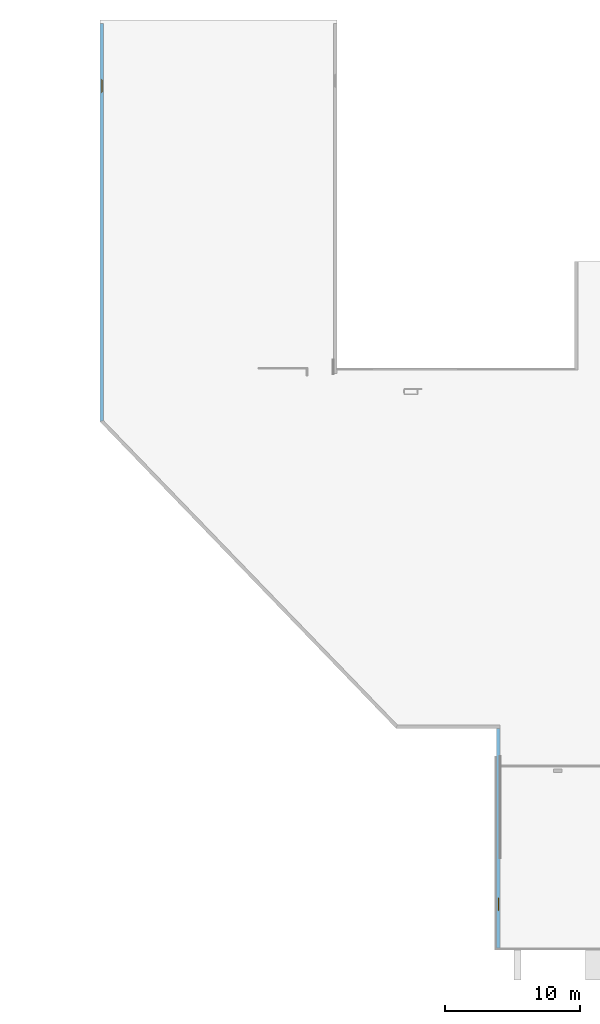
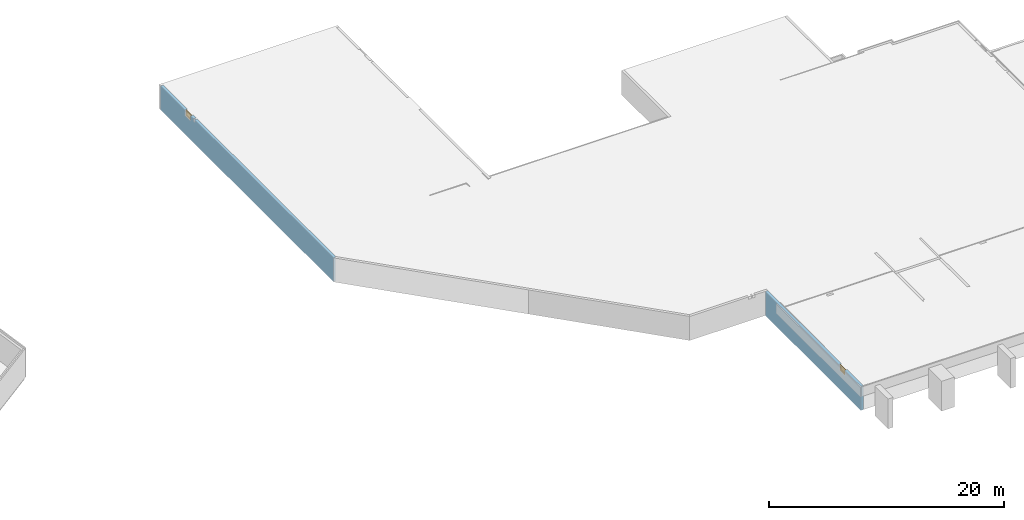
# One storey, part 8 of 10: 2 windows, 3 openings, plus 2 elements that do not belong to this part.
"""IFC2X3 building model written with IfcOpenShell, lengths in millimetres."""

import ifcopenshell
import ifcopenshell.guid

model = None  # the IFC model being written
_history = None  # IfcOwnerHistory: only IFC2X3 demands one
_inside = {}  # id of a spatial element -> (the spatial element, [elements in it])
_under = {}  # id of a project, library or spatial element -> (it, [spatial elements below it])
_declared = {}  # id of a project -> (the project, [libraries it declares])
_typed = {}  # id of a type object -> (the type object, [elements of that type])
_made_of = {}  # id of a material, layer set ... -> (it, [elements and type objects made of it])


def new_model(schema):
    """Start an empty IFC model of exactly this schema.

    Asked for "IFC4X3", IfcOpenShell would pick the latest addendum, in which some entities
    have other attributes; the version numbers below select the first issue.
    IFC2X3 requires an IfcOwnerHistory on every rooted entity: one is made here for all.
    """
    global model, _history
    if schema == "IFC4X3":
        model = ifcopenshell.file(schema_version=(4, 3, 0, 0))
    else:
        model = ifcopenshell.file(schema=schema)
    _inside.clear()
    _under.clear()
    _declared.clear()
    _typed.clear()
    _made_of.clear()
    _history = None
    if model.schema == "IFC2X3":
        org = make("IfcOrganization", Name="unknown")
        user = make(
            "IfcPersonAndOrganization",
            ThePerson=make("IfcPerson", FamilyName="unknown"),
            TheOrganization=org,
        )
        app = make(
            "IfcApplication",
            ApplicationDeveloper=org,
            Version="unknown",
            ApplicationFullName="unknown",
            ApplicationIdentifier="unknown",
        )
        _history = make(
            "IfcOwnerHistory",
            OwningUser=user,
            OwningApplication=app,
            ChangeAction="ADDED",
            CreationDate=0,
        )
    return model


def make(cls, **values):
    """One entity of the class cls with the attributes given. An attribute that is None is left unset."""
    return model.create_entity(
        cls, **{name: value for name, value in values.items() if value is not None}
    )


def entity(cls, *values):
    """Any entity or typed value of the class cls, its attributes in the order of the schema. None: left unset."""
    e = model.create_entity(cls)
    for i, value in enumerate(values):
        if value is not None:
            e[i] = value
    return e


def rooted(cls, **values):
    """An entity with a GlobalId (a new one), such as an element, a storey or a relation."""
    return make(cls, GlobalId=ifcopenshell.guid.new(), OwnerHistory=_history, **values)


def si_unit(unit_type, name, prefix=None):
    """IfcSIUnit, for example si_unit("LENGTHUNIT", "METRE", prefix="MILLI")."""
    return make("IfcSIUnit", UnitType=unit_type, Prefix=prefix, Name=name)


def converted_unit(unit_type, name, factor, base, dimensions=None, offset=None):
    """IfcConversionBasedUnit, such as the inch: factor (a typed value) times the base unit."""
    return make(
        "IfcConversionBasedUnit"
        if offset is None
        else "IfcConversionBasedUnitWithOffset",
        ConversionOffset=offset,
        Dimensions=None
        if dimensions is None
        else entity("IfcDimensionalExponents", *dimensions),
        UnitType=unit_type,
        Name=name,
        ConversionFactor=make(
            "IfcMeasureWithUnit", ValueComponent=factor, UnitComponent=base
        ),
    )


def assignment(units):
    """IfcUnitAssignment: the units of a project."""
    return None if units is None else make("IfcUnitAssignment", Units=units)


def point(xyz):
    """IfcCartesianPoint."""
    return None if xyz is None else make("IfcCartesianPoint", Coordinates=xyz)


def direction(xyz):
    """IfcDirection."""
    return None if xyz is None else make("IfcDirection", DirectionRatios=xyz)


def frame(location, z_axis=None, x_axis=None):
    """IfcAxis2Placement3D, a coordinate frame: its origin and axes. An axis left out is left unset."""
    return make(
        "IfcAxis2Placement3D",
        Location=point(location),
        Axis=direction(z_axis),
        RefDirection=direction(x_axis),
    )


def frame_2d(location, x_axis=None):
    """IfcAxis2Placement2D, a coordinate frame in the plane: its origin and x axis."""
    return make(
        "IfcAxis2Placement2D", Location=point(location), RefDirection=direction(x_axis)
    )


def origin():
    """The frame at (0, 0, 0) with its axes left unset."""
    return frame((0.0, 0.0, 0.0))


def origin_with_axes():
    """The frame at (0, 0, 0) with the z axis (0, 0, 1) and the x axis (1, 0, 0) written out."""
    return frame((0.0, 0.0, 0.0), z_axis=(0.0, 0.0, 1.0), x_axis=(1.0, 0.0, 0.0))


def place(relative_to, where):
    """IfcLocalPlacement: puts the frame where relative to a parent placement (None: the world)."""
    return make(
        "IfcLocalPlacement", PlacementRelTo=relative_to, RelativePlacement=where
    )


def context(
    kind, dimensions, precision=None, world=None, true_north=None, identifier=None
):
    """IfcGeometricRepresentationContext, for example the 3D "Model" context."""
    return make(
        "IfcGeometricRepresentationContext",
        ContextIdentifier=identifier,
        ContextType=kind,
        CoordinateSpaceDimension=dimensions,
        Precision=precision,
        WorldCoordinateSystem=world,
        TrueNorth=true_north,
    )


def subcontext(parent, identifier, kind, view, scale=None):
    """IfcGeometricRepresentationSubContext, for example "Body" below "Model"."""
    return make(
        "IfcGeometricRepresentationSubContext",
        ContextIdentifier=identifier,
        ContextType=kind,
        ParentContext=parent,
        TargetScale=scale,
        TargetView=view,
    )


def project(units=None, contexts=None):
    """IfcProject with its units and contexts."""
    return rooted(
        "IfcProject",
        Name="project",
        RepresentationContexts=contexts,
        UnitsInContext=assignment(units),
    )


def spatial(cls, under=None, at=None, **own):
    """A site, building, storey or space (cls), placed at a placement, below another one or the project."""
    s = rooted(cls, ObjectPlacement=at, **own)
    if under is not None:
        _under.setdefault(under.id(), (under, []))[1].append(s)
    return s


def polyline(points):
    """IfcPolyline through the points."""
    return make("IfcPolyline", Points=[point(p) for p in points])


def profile(cls, at=None, kind="AREA", **sizes):
    """A parametric profile (cls). Its sizes go by their IFC names, for example OverallWidth=200.0."""
    return make(cls, ProfileType=kind, Position=at, **sizes)


def rectangle(**sizes):
    """IfcRectangleProfileDef."""
    return profile("IfcRectangleProfileDef", **sizes)


def outline(outer, holes=None, kind="AREA"):
    """IfcArbitraryClosedProfileDef: a profile drawn as a closed curve; with holes, ...WithVoids."""
    if holes is None:
        return make("IfcArbitraryClosedProfileDef", ProfileType=kind, OuterCurve=outer)
    return make(
        "IfcArbitraryProfileDefWithVoids",
        ProfileType=kind,
        OuterCurve=outer,
        InnerCurves=holes,
    )


def extrude(swept, where, along, depth):
    """IfcExtrudedAreaSolid: the profile swept, set in the frame where, extruded along a direction by depth."""
    return make(
        "IfcExtrudedAreaSolid",
        SweptArea=swept,
        Position=where,
        ExtrudedDirection=direction(along),
        Depth=depth,
    )


def faces_of(points, faces, orient=None, outer=None):
    """IfcFace entities. A face is a list of loops; a loop is a list of indices into points, from 0.

    orient and outer hold one flag for each loop. By default every Orientation is true, the
    first loop of a face is its IfcFaceOuterBound and the others are IfcFaceBound.
    """
    made = []
    for i, loops in enumerate(faces):
        bounds = []
        for j, loop in enumerate(loops):
            is_outer = j == 0 if outer is None else outer[i][j]
            bounds.append(
                make(
                    "IfcFaceOuterBound" if is_outer else "IfcFaceBound",
                    Bound=make("IfcPolyLoop", Polygon=[points[k] for k in loop]),
                    Orientation=True if orient is None else orient[i][j],
                )
            )
        made.append(make("IfcFace", Bounds=bounds))
    return made


def faceted_brep(points, faces, orient=None, outer=None, voids=None):
    """IfcFacetedBrep: a solid bounded by flat faces; with voids (closed shells), ...WithVoids."""
    shared = [point(p) for p in points]
    hull = make("IfcClosedShell", CfsFaces=faces_of(shared, faces, orient, outer))
    if voids is None:
        return make("IfcFacetedBrep", Outer=hull)
    return make(
        "IfcFacetedBrepWithVoids",
        Outer=hull,
        Voids=[
            make(cls, CfsFaces=faces_of(shared, fs, o, b)) for cls, fs, o, b in voids
        ],
    )


def shape(context_of_items, identifier, shape_type, items):
    """IfcShapeRepresentation: the items that make up one representation, for example the "Body"."""
    return make(
        "IfcShapeRepresentation",
        ContextOfItems=context_of_items,
        RepresentationIdentifier=identifier,
        RepresentationType=shape_type,
        Items=items,
    )


def material(Name=None, Category=None):
    """IfcMaterial."""
    return make("IfcMaterial", Name=Name, Category=Category)


def layer(
    of_material, thickness, ventilated=None, Name=None, Category=None, Priority=None
):
    """IfcMaterialLayer: one layer of a wall or slab, of a material (None: an air gap)."""
    return make(
        "IfcMaterialLayer",
        Material=of_material,
        LayerThickness=thickness,
        IsVentilated=ventilated,
        Name=Name,
        Category=Category,
        Priority=Priority,
    )


def layer_set(layers, Name=None):
    """IfcMaterialLayerSet."""
    return make("IfcMaterialLayerSet", MaterialLayers=layers, LayerSetName=Name)


def layer_usage(for_layer_set, set_direction, sense, offset, extent=None):
    """IfcMaterialLayerSetUsage: how a layer set lies in its element."""
    return make(
        "IfcMaterialLayerSetUsage",
        ForLayerSet=for_layer_set,
        LayerSetDirection=set_direction,
        DirectionSense=sense,
        OffsetFromReferenceLine=offset,
        ReferenceExtent=extent,
    )


def made_of(thing, what):
    """Note that an element or type object is made of a material, layer set ...; save() writes the relation."""
    if what is not None:
        _made_of.setdefault(what.id(), (what, []))[1].append(thing)
    return thing


def type_object(cls, material=None, **own):
    """A type object (cls), such as IfcWallType, which elements share."""
    return made_of(rooted(cls, **own), material)


def element(
    cls,
    number,
    at=None,
    inside=None,
    cuts=None,
    type_object=None,
    material=None,
    context=None,
    identifier="Body",
    shape_type=None,
    held_by="IfcProductDefinitionShape",
    body=None,
    shapes=None,
    **own,
):
    """One element of the class cls, such as IfcWall. Its Tag is "e" and its number.

    at: its placement. inside: the storey or other place that contains it. cuts: it is an
    opening in that element (IfcRelVoidsElement). A single representation is given by context,
    identifier, shape_type and body (its items); several are given by shapes. held_by: the class
    of the entity that holds the representations. save() writes the other relations.
    """
    e = rooted(cls, Tag="e%d" % number, ObjectPlacement=at, **own)
    if body is not None:
        shapes = [shape(context, identifier, shape_type, body)]
    if shapes is not None:
        e.Representation = make(held_by, Representations=shapes)
    if inside is not None:
        _inside.setdefault(inside.id(), (inside, []))[1].append(e)
    if cuts is not None:
        rooted(
            "IfcRelVoidsElement", RelatingBuildingElement=cuts, RelatedOpeningElement=e
        )
    if type_object is not None:
        _typed.setdefault(type_object.id(), (type_object, []))[1].append(e)
    return made_of(e, material)


def fill(opening, filler):
    """IfcRelFillsElement: the door or window that sits in an opening."""
    return rooted(
        "IfcRelFillsElement",
        RelatingOpeningElement=opening,
        RelatedBuildingElement=filler,
    )


def aggregate(whole, parts):
    """IfcRelAggregates: a whole, such as a stair, and the parts it consists of."""
    return rooted("IfcRelAggregates", RelatingObject=whole, RelatedObjects=parts)


def save(model, path):
    """Write the relations noted so far, then the file.

    IfcRelAggregates (storeys below a building ...), IfcRelContainedInSpatialStructure (elements
    in a storey), IfcRelDefinesByType, IfcRelAssociatesMaterial and IfcRelDeclares: one each for
    every whole, place, type object, material and project.
    """
    for whole, parts in _under.values():
        aggregate(whole, parts)
    for where, things in _inside.values():
        rooted(
            "IfcRelContainedInSpatialStructure",
            RelatedElements=things,
            RelatingStructure=where,
        )
    for kind, things in _typed.values():
        rooted("IfcRelDefinesByType", RelatedObjects=things, RelatingType=kind)
    for what, things in _made_of.values():
        rooted("IfcRelAssociatesMaterial", RelatedObjects=things, RelatingMaterial=what)
    for by, libraries in _declared.values():
        rooted("IfcRelDeclares", RelatingContext=by, RelatedDefinitions=libraries)
    model.write(path)


model = new_model("IFC2X3")

# Units and contexts
model_context = context("Model", 3, precision=1e-05, world=origin())
body_context = subcontext(model_context, "Body", "Model", "MODEL_VIEW")
ifc_project = project(units=[si_unit("LENGTHUNIT", "METRE", prefix="MILLI"), converted_unit("PLANEANGLEUNIT", "DEGREE", entity("IfcPlaneAngleMeasure", 0.0174532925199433), si_unit("PLANEANGLEUNIT", "RADIAN"), dimensions=[0, 0, 0, 0, 0, 0, 0]), si_unit("AREAUNIT", "SQUARE_METRE"), si_unit("VOLUMEUNIT", "CUBIC_METRE")], contexts=[model_context])

# Building, storey
building_placement = place(None, origin())
building = spatial("IfcBuilding", under=ifc_project, at=building_placement, Name="Gebäude", CompositionType="ELEMENT")
storey_placement = place(building_placement, frame((0.0, 0.0, -3205.0), z_axis=(0.0, 0.0, 1.0), x_axis=(1.0, 0.0, 0.0)))
storey = spatial("IfcBuildingStorey", under=building, at=storey_placement, Name="KG.- Grundriss", CompositionType="ELEMENT", Elevation=-3205.0)

# Wall, openings, window
ifc_material_1 = material(Name="Stb-Wand")
ifc_layer_1 = layer(ifc_material_1, 249.9999999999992)
ifc_layer_set_1 = layer_set([ifc_layer_1])
ifc_layer_usage_1 = layer_usage(ifc_layer_set_1, "AXIS2", "POSITIVE", 0.0)
wall_1_placement = place(storey_placement, frame((212857.6842014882, 153405.0661829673, 3205.0), z_axis=(0.0, 0.0, 1.0), x_axis=(-7.913862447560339e-15, -1.0, 0.0)))
wall_1 = element("IfcWallStandardCase", 1, at=wall_1_placement, inside=storey, material=ifc_layer_usage_1, Name="<Unnamed Element>", context=body_context, shape_type="SweptSolid", body=[
    extrude(outline(polyline([(0.0, 0.0), (29420.60785067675, 0.0), (29319.60129421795, 249.9999999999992), (-1.978465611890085e-12, 250.0), (0.0, 0.0)])), origin_with_axes(), (0.0, 0.0, 1.0), 2500.0),
])
opening_1_placement = place(wall_1_placement, frame((4115.0, -5.820766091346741e-11, 1900.0), z_axis=(0.0, 1.0, 0.0), x_axis=(0.0, 0.0, 1.0)))
opening_1 = element("IfcOpeningElement", 2, at=opening_1_placement, cuts=wall_1, Name="Fensteröffnung", ObjectType="Opening", context=body_context, shape_type="SweptSolid", body=[
    extrude(rectangle(XDim=600.0, YDim=1010.0, at=frame_2d((300.0, 505.0), x_axis=(1.0, 0.0))), origin_with_axes(), (0.0, 0.0, 1.0), 250.0),
])
opening_2_placement = place(wall_1_placement, frame((5609.999996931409, 2.980290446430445e-06, 2250.0), z_axis=(0.0, 1.0, 0.0), x_axis=(0.0, 0.0, 1.0)))
element("IfcOpeningElement", 3, at=opening_2_placement, cuts=wall_1, Name="Wanddurchbruch", ObjectType="Recess", context=body_context, shape_type="SweptSolid", body=[
    extrude(rectangle(XDim=250.0, YDim=200.0, at=frame_2d((125.0, 100.0), x_axis=(1.0, 0.0))), origin_with_axes(), (0.0, 0.0, 1.0), 249.999999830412),
])
ifc_material_2 = material()
window_style_1 = type_object("IfcWindowStyle", Name="Fenster", ConstructionType="NOTDEFINED", OperationType="SINGLE_PANEL", ParameterTakesPrecedence=True, Sizeable=False)
window_1_placement = place(opening_1_placement, frame((0.0, 0.0, 100.0), z_axis=(1.0, 0.0, 0.0), x_axis=(0.0, 1.0, 0.0)))
window_1 = element("IfcWindow", 4, at=window_1_placement, inside=storey, type_object=window_style_1, material=ifc_material_2, Name="Fenster", OverallHeight=600.0, OverallWidth=1010.0, context=body_context, shape_type="Brep", body=[
    faceted_brep([(960.0000000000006, 50.00000000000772, 0.0), (1010.000000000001, 50.00000000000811, 0.0), (1010.000000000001, 50.00000000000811, 600.0), (960.0000000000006, 50.00000000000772, 600.0), (1010.000000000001, 8.114398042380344e-12, 0.0), (960.0000000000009, 7.709388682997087e-12, 0.0), (960.0000000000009, 7.709388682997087e-12, 600.0), (1010.000000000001, 8.114398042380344e-12, 600.0), (1010.000000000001, 50.00000000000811, 0.0), (960.0000000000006, 50.00000000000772, 0.0), (960.0000000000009, 7.709388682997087e-12, 0.0), (1010.000000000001, 8.114398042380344e-12, 0.0), (1010.000000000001, 50.00000000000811, 600.0), (1010.000000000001, 50.00000000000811, 0.0), (1010.000000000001, 8.114398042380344e-12, 0.0), (1010.000000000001, 8.114398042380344e-12, 600.0), (960.0000000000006, 50.00000000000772, 600.0), (1010.000000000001, 50.00000000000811, 600.0), (1010.000000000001, 8.114398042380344e-12, 600.0), (960.0000000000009, 7.709388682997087e-12, 600.0), (960.0000000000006, 50.00000000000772, 0.0), (960.0000000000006, 50.00000000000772, 600.0), (960.0000000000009, 7.709388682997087e-12, 600.0), (960.0000000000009, 7.709388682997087e-12, 0.0)], [[[0, 1, 2, 3]], [[4, 5, 6, 7]], [[8, 9, 10, 11]], [[12, 13, 14, 15]], [[16, 17, 18, 19]], [[20, 21, 22, 23]]], orient=[[False], [False], [False], [False], [False], [False]]),
    faceted_brep([(50.00000000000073, 50.0000000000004, 600.0), (7.227429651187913e-13, 50.0, 600.0), (7.227429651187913e-13, 50.0, 0.0), (50.00000000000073, 50.0000000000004, 0.0), (1.121497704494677e-12, 0.0, 600.0), (50.00000000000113, 3.979039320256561e-13, 600.0), (50.00000000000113, 3.979039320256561e-13, 0.0), (1.121497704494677e-12, 0.0, 0.0), (7.227429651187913e-13, 50.0, 600.0), (50.00000000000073, 50.0000000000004, 600.0), (50.00000000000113, 3.979039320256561e-13, 600.0), (1.121497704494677e-12, 0.0, 600.0), (7.227429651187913e-13, 50.0, 0.0), (7.227429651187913e-13, 50.0, 600.0), (1.121497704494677e-12, 0.0, 600.0), (1.121497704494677e-12, 0.0, 0.0), (50.00000000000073, 50.0000000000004, 0.0), (7.227429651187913e-13, 50.0, 0.0), (1.121497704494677e-12, 0.0, 0.0), (50.00000000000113, 3.979039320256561e-13, 0.0), (50.00000000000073, 50.0000000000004, 600.0), (50.00000000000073, 50.0000000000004, 0.0), (50.00000000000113, 3.979039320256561e-13, 0.0), (50.00000000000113, 3.979039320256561e-13, 600.0)], [[[0, 1, 2, 3]], [[4, 5, 6, 7]], [[8, 9, 10, 11]], [[12, 13, 14, 15]], [[16, 17, 18, 19]], [[20, 21, 22, 23]]], orient=[[False], [False], [False], [False], [False], [False]]),
    faceted_brep([(960.0000000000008, 50.00000000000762, 550.0), (960.0000000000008, 50.00000000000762, 600.0), (50.00000000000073, 50.00000000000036, 600.0), (50.00000000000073, 50.00000000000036, 550.0), (960.0000000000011, 7.609912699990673e-12, 600.0), (960.0000000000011, 7.609912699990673e-12, 550.0), (50.00000000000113, 3.552713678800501e-13, 550.0), (50.00000000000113, 3.552713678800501e-13, 600.0), (960.0000000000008, 50.00000000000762, 600.0), (960.0000000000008, 50.00000000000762, 550.0), (960.0000000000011, 7.609912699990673e-12, 550.0), (960.0000000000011, 7.609912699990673e-12, 600.0), (50.00000000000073, 50.00000000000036, 600.0), (960.0000000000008, 50.00000000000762, 600.0), (960.0000000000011, 7.609912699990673e-12, 600.0), (50.00000000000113, 3.552713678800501e-13, 600.0), (50.00000000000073, 50.00000000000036, 550.0), (50.00000000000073, 50.00000000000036, 600.0), (50.00000000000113, 3.552713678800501e-13, 600.0), (50.00000000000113, 3.552713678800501e-13, 550.0), (960.0000000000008, 50.00000000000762, 550.0), (50.00000000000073, 50.00000000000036, 550.0), (50.00000000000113, 3.552713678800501e-13, 550.0), (960.0000000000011, 7.609912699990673e-12, 550.0)], [[[0, 1, 2, 3]], [[4, 5, 6, 7]], [[8, 9, 10, 11]], [[12, 13, 14, 15]], [[16, 17, 18, 19]], [[20, 21, 22, 23]]], orient=[[False], [False], [False], [False], [False], [False]]),
    faceted_brep([(50.00000000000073, 50.00000000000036, 50.0), (50.00000000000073, 50.00000000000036, 0.0), (960.0000000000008, 50.00000000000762, 0.0), (960.0000000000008, 50.00000000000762, 50.0), (50.00000000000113, 3.552713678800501e-13, 0.0), (50.00000000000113, 3.552713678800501e-13, 50.0), (960.0000000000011, 7.609912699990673e-12, 50.0), (960.0000000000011, 7.609912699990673e-12, 0.0), (50.00000000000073, 50.00000000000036, 0.0), (50.00000000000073, 50.00000000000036, 50.0), (50.00000000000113, 3.552713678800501e-13, 50.0), (50.00000000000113, 3.552713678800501e-13, 0.0), (960.0000000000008, 50.00000000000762, 0.0), (50.00000000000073, 50.00000000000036, 0.0), (50.00000000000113, 3.552713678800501e-13, 0.0), (960.0000000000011, 7.609912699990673e-12, 0.0), (960.0000000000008, 50.00000000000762, 50.0), (960.0000000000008, 50.00000000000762, 0.0), (960.0000000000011, 7.609912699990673e-12, 0.0), (960.0000000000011, 7.609912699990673e-12, 50.0), (50.00000000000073, 50.00000000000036, 50.0), (960.0000000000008, 50.00000000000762, 50.0), (960.0000000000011, 7.609912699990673e-12, 50.0), (50.00000000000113, 3.552713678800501e-13, 50.0)], [[[0, 1, 2, 3]], [[4, 5, 6, 7]], [[8, 9, 10, 11]], [[12, 13, 14, 15]], [[16, 17, 18, 19]], [[20, 21, 22, 23]]], orient=[[False], [False], [False], [False], [False], [False]]),
    faceted_brep([(960.0000000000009, 25.0000000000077, 50.0), (910.0000000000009, 25.0000000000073, 50.0), (910.0000000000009, 25.0000000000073, 550.0), (960.0000000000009, 25.0000000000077, 550.0), (910.0000000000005, 75.0000000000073, 50.0), (960.0000000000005, 75.0000000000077, 50.0), (960.0000000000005, 75.0000000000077, 550.0), (910.0000000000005, 75.0000000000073, 550.0), (910.0000000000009, 25.0000000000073, 50.0), (960.0000000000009, 25.0000000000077, 50.0), (960.0000000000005, 75.0000000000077, 50.0), (910.0000000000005, 75.0000000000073, 50.0), (910.0000000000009, 25.0000000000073, 550.0), (910.0000000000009, 25.0000000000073, 50.0), (910.0000000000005, 75.0000000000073, 50.0), (910.0000000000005, 75.0000000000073, 550.0), (960.0000000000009, 25.0000000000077, 550.0), (910.0000000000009, 25.0000000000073, 550.0), (910.0000000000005, 75.0000000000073, 550.0), (960.0000000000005, 75.0000000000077, 550.0), (960.0000000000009, 25.0000000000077, 50.0), (960.0000000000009, 25.0000000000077, 550.0), (960.0000000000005, 75.0000000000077, 550.0), (960.0000000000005, 75.0000000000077, 50.0)], [[[0, 1, 2, 3]], [[4, 5, 6, 7]], [[8, 9, 10, 11]], [[12, 13, 14, 15]], [[16, 17, 18, 19]], [[20, 21, 22, 23]]], orient=[[False], [False], [False], [False], [False], [False]]),
    faceted_brep([(50.00000000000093, 25.0000000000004, 550.0), (100.0000000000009, 25.0000000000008, 550.0), (100.0000000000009, 25.0000000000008, 50.0), (50.00000000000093, 25.0000000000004, 50.0), (100.0000000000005, 75.0000000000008, 550.0), (50.00000000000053, 75.0000000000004, 550.0), (50.00000000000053, 75.0000000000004, 50.0), (100.0000000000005, 75.0000000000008, 50.0), (100.0000000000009, 25.0000000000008, 550.0), (50.00000000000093, 25.0000000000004, 550.0), (50.00000000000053, 75.0000000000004, 550.0), (100.0000000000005, 75.0000000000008, 550.0), (100.0000000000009, 25.0000000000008, 50.0), (100.0000000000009, 25.0000000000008, 550.0), (100.0000000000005, 75.0000000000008, 550.0), (100.0000000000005, 75.0000000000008, 50.0), (50.00000000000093, 25.0000000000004, 50.0), (100.0000000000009, 25.0000000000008, 50.0), (100.0000000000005, 75.0000000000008, 50.0), (50.00000000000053, 75.0000000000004, 50.0), (50.00000000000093, 25.0000000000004, 550.0), (50.00000000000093, 25.0000000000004, 50.0), (50.00000000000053, 75.0000000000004, 50.0), (50.00000000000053, 75.0000000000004, 550.0)], [[[0, 1, 2, 3]], [[4, 5, 6, 7]], [[8, 9, 10, 11]], [[12, 13, 14, 15]], [[16, 17, 18, 19]], [[20, 21, 22, 23]]], orient=[[False], [False], [False], [False], [False], [False]]),
    faceted_brep([(910.0000000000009, 25.00000000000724, 550.0), (910.0000000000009, 25.00000000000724, 500.0), (100.0000000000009, 25.00000000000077, 500.0), (100.0000000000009, 25.00000000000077, 550.0), (910.0000000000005, 75.00000000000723, 500.0), (910.0000000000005, 75.00000000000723, 550.0), (100.0000000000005, 75.00000000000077, 550.0), (100.0000000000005, 75.00000000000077, 500.0), (910.0000000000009, 25.00000000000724, 500.0), (910.0000000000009, 25.00000000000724, 550.0), (910.0000000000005, 75.00000000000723, 550.0), (910.0000000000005, 75.00000000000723, 500.0), (100.0000000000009, 25.00000000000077, 500.0), (910.0000000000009, 25.00000000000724, 500.0), (910.0000000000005, 75.00000000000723, 500.0), (100.0000000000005, 75.00000000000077, 500.0), (100.0000000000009, 25.00000000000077, 550.0), (100.0000000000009, 25.00000000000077, 500.0), (100.0000000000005, 75.00000000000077, 500.0), (100.0000000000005, 75.00000000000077, 550.0), (910.0000000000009, 25.00000000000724, 550.0), (100.0000000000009, 25.00000000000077, 550.0), (100.0000000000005, 75.00000000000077, 550.0), (910.0000000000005, 75.00000000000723, 550.0)], [[[0, 1, 2, 3]], [[4, 5, 6, 7]], [[8, 9, 10, 11]], [[12, 13, 14, 15]], [[16, 17, 18, 19]], [[20, 21, 22, 23]]], orient=[[False], [False], [False], [False], [False], [False]]),
    faceted_brep([(100.0000000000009, 25.00000000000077, 50.0), (100.0000000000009, 25.00000000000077, 100.0), (910.0000000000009, 25.00000000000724, 100.0), (910.0000000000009, 25.00000000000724, 50.0), (100.0000000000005, 75.00000000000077, 100.0), (100.0000000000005, 75.00000000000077, 50.0), (910.0000000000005, 75.00000000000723, 50.0), (910.0000000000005, 75.00000000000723, 100.0), (100.0000000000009, 25.00000000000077, 100.0), (100.0000000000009, 25.00000000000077, 50.0), (100.0000000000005, 75.00000000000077, 50.0), (100.0000000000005, 75.00000000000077, 100.0), (910.0000000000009, 25.00000000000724, 100.0), (100.0000000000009, 25.00000000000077, 100.0), (100.0000000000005, 75.00000000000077, 100.0), (910.0000000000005, 75.00000000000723, 100.0), (910.0000000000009, 25.00000000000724, 50.0), (910.0000000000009, 25.00000000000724, 100.0), (910.0000000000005, 75.00000000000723, 100.0), (910.0000000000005, 75.00000000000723, 50.0), (100.0000000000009, 25.00000000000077, 50.0), (910.0000000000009, 25.00000000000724, 50.0), (910.0000000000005, 75.00000000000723, 50.0), (100.0000000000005, 75.00000000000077, 50.0)], [[[0, 1, 2, 3]], [[4, 5, 6, 7]], [[8, 9, 10, 11]], [[12, 13, 14, 15]], [[16, 17, 18, 19]], [[20, 21, 22, 23]]], orient=[[False], [False], [False], [False], [False], [False]]),
    faceted_brep([(910.0000000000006, 50.00000000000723, 100.0), (910.0000000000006, 50.00000000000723, 500.0), (100.0000000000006, 50.00000000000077, 500.0), (100.0000000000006, 50.00000000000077, 100.0), (910.0000000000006, 49.00000000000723, 100.0), (100.0000000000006, 49.00000000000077, 100.0), (100.0000000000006, 49.00000000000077, 500.0), (910.0000000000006, 49.00000000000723, 500.0), (910.0000000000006, 50.00000000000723, 100.0), (910.0000000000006, 49.00000000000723, 100.0), (910.0000000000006, 49.00000000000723, 500.0), (910.0000000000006, 50.00000000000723, 500.0), (910.0000000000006, 50.00000000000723, 500.0), (910.0000000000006, 49.00000000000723, 500.0), (100.0000000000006, 49.00000000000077, 500.0), (100.0000000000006, 50.00000000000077, 500.0), (100.0000000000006, 50.00000000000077, 500.0), (100.0000000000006, 49.00000000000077, 500.0), (100.0000000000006, 49.00000000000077, 100.0), (100.0000000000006, 50.00000000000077, 100.0), (100.0000000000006, 50.00000000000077, 100.0), (100.0000000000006, 49.00000000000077, 100.0), (910.0000000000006, 49.00000000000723, 100.0), (910.0000000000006, 50.00000000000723, 100.0)], [[[0, 1, 2, 3]], [[4, 5, 6, 7]], [[8, 9, 10, 11]], [[12, 13, 14, 15]], [[16, 17, 18, 19]], [[20, 21, 22, 23]]], orient=[[False], [False], [False], [False], [False], [False]]),
])
fill(opening_1, window_1)

# Wall, opening, window
ifc_material_3 = material(Name="Stb-Wand")
ifc_layer_2 = layer(ifc_material_3, 250.0)
ifc_layer_set_2 = layer_set([ifc_layer_2])
ifc_layer_usage_2 = layer_usage(ifc_layer_set_2, "AXIS2", "POSITIVE", 0.0)
wall_2_placement = place(storey_placement, frame((242142.726379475, 101340.0661829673, 3205.0), z_axis=(0.0, 0.0, 1.0), x_axis=(-7.166224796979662e-15, -1.0, 0.0)))
wall_2 = element("IfcWallStandardCase", 5, at=wall_2_placement, inside=storey, material=ifc_layer_usage_2, Name="<Unnamed Element>", context=body_context, shape_type="SweptSolid", body=[
    extrude(rectangle(XDim=16245.00000000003, YDim=250.0, at=frame_2d((8122.500000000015, 125.0), x_axis=(1.0, 0.0))), origin_with_axes(), (0.0, 0.0, 1.0), 2500.0),
])
opening_3_placement = place(wall_2_placement, frame((12495.00000000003, -1.164153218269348e-10, 1900.0), z_axis=(0.0, 1.0, 0.0), x_axis=(0.0, 0.0, 1.0)))
opening_3 = element("IfcOpeningElement", 6, at=opening_3_placement, cuts=wall_2, Name="Fensteröffnung", ObjectType="Opening", context=body_context, shape_type="SweptSolid", body=[
    extrude(rectangle(XDim=600.0, YDim=1010.0, at=frame_2d((300.0, 505.0), x_axis=(1.0, 0.0))), origin_with_axes(), (0.0, 0.0, 1.0), 250.0),
])
ifc_material_4 = material()
window_style_2 = type_object("IfcWindowStyle", Name="Fenster", ConstructionType="NOTDEFINED", OperationType="SINGLE_PANEL", ParameterTakesPrecedence=True, Sizeable=False)
window_2_placement = place(opening_3_placement, frame((0.0, 0.0, 100.0), z_axis=(1.0, 0.0, 0.0), x_axis=(0.0, 1.0, 0.0)))
window_2 = element("IfcWindow", 7, at=window_2_placement, inside=storey, type_object=window_style_2, material=ifc_material_4, Name="Fenster", OverallHeight=600.0, OverallWidth=1010.0, context=body_context, shape_type="Brep", body=[
    faceted_brep([(50.00000000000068, 49.99999999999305, 0.0), (50.00000000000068, 49.99999999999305, 600.0), (6.821210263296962e-13, 49.99999999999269, 600.0), (6.821210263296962e-13, 49.99999999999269, 0.0), (1.023181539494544e-12, -7.311484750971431e-12, 0.0), (1.023181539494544e-12, -7.311484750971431e-12, 600.0), (50.00000000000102, -6.94910795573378e-12, 600.0), (50.00000000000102, -6.94910795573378e-12, 0.0), (6.821210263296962e-13, 49.99999999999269, 0.0), (1.023181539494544e-12, -7.311484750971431e-12, 0.0), (50.00000000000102, -6.94910795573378e-12, 0.0), (50.00000000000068, 49.99999999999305, 0.0), (6.821210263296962e-13, 49.99999999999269, 600.0), (1.023181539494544e-12, -7.311484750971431e-12, 600.0), (1.023181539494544e-12, -7.311484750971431e-12, 0.0), (6.821210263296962e-13, 49.99999999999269, 0.0), (50.00000000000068, 49.99999999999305, 600.0), (50.00000000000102, -6.94910795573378e-12, 600.0), (1.023181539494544e-12, -7.311484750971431e-12, 600.0), (6.821210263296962e-13, 49.99999999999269, 600.0), (50.00000000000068, 49.99999999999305, 0.0), (50.00000000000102, -6.94910795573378e-12, 0.0), (50.00000000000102, -6.94910795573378e-12, 600.0), (50.00000000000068, 49.99999999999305, 600.0)], [[[0, 1, 2, 3]], [[4, 5, 6, 7]], [[8, 9, 10, 11]], [[12, 13, 14, 15]], [[16, 17, 18, 19]], [[20, 21, 22, 23]]], orient=[[False], [False], [False], [False], [False], [False]]),
    faceted_brep([(960.0000000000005, 49.99999999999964, 600.0), (960.0000000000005, 49.99999999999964, 0.0), (1010.000000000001, 50.0, 0.0), (1010.000000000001, 50.0, 600.0), (1010.000000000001, 0.0, 600.0), (1010.000000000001, 0.0, 0.0), (960.0000000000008, -3.623767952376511e-13, 0.0), (960.0000000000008, -3.623767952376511e-13, 600.0), (1010.000000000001, 50.0, 600.0), (1010.000000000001, 0.0, 600.0), (960.0000000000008, -3.623767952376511e-13, 600.0), (960.0000000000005, 49.99999999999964, 600.0), (1010.000000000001, 50.0, 0.0), (1010.000000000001, 0.0, 0.0), (1010.000000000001, 0.0, 600.0), (1010.000000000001, 50.0, 600.0), (960.0000000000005, 49.99999999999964, 0.0), (960.0000000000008, -3.623767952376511e-13, 0.0), (1010.000000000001, 0.0, 0.0), (1010.000000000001, 50.0, 0.0), (960.0000000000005, 49.99999999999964, 600.0), (960.0000000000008, -3.623767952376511e-13, 600.0), (960.0000000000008, -3.623767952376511e-13, 0.0), (960.0000000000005, 49.99999999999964, 0.0)], [[[0, 1, 2, 3]], [[4, 5, 6, 7]], [[8, 9, 10, 11]], [[12, 13, 14, 15]], [[16, 17, 18, 19]], [[20, 21, 22, 23]]], orient=[[False], [False], [False], [False], [False], [False]]),
    faceted_brep([(960.0000000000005, 49.99999999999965, 50.0), (50.00000000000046, 49.99999999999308, 50.0), (50.00000000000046, 49.99999999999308, 0.0), (960.0000000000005, 49.99999999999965, 0.0), (960.0000000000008, -3.481659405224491e-13, 0.0), (50.0000000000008, -6.920686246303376e-12, 0.0), (50.0000000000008, -6.920686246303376e-12, 50.0), (960.0000000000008, -3.481659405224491e-13, 50.0), (960.0000000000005, 49.99999999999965, 0.0), (960.0000000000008, -3.481659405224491e-13, 0.0), (960.0000000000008, -3.481659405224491e-13, 50.0), (960.0000000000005, 49.99999999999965, 50.0), (50.00000000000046, 49.99999999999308, 0.0), (50.0000000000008, -6.920686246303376e-12, 0.0), (960.0000000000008, -3.481659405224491e-13, 0.0), (960.0000000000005, 49.99999999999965, 0.0), (50.00000000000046, 49.99999999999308, 50.0), (50.0000000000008, -6.920686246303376e-12, 50.0), (50.0000000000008, -6.920686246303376e-12, 0.0), (50.00000000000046, 49.99999999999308, 0.0), (960.0000000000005, 49.99999999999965, 50.0), (960.0000000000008, -3.481659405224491e-13, 50.0), (50.0000000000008, -6.920686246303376e-12, 50.0), (50.00000000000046, 49.99999999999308, 50.0)], [[[0, 1, 2, 3]], [[4, 5, 6, 7]], [[8, 9, 10, 11]], [[12, 13, 14, 15]], [[16, 17, 18, 19]], [[20, 21, 22, 23]]], orient=[[False], [False], [False], [False], [False], [False]]),
    faceted_brep([(50.00000000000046, 49.99999999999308, 550.0), (960.0000000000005, 49.99999999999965, 550.0), (960.0000000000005, 49.99999999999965, 600.0), (50.00000000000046, 49.99999999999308, 600.0), (50.0000000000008, -6.920686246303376e-12, 600.0), (960.0000000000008, -3.481659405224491e-13, 600.0), (960.0000000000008, -3.481659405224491e-13, 550.0), (50.0000000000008, -6.920686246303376e-12, 550.0), (50.00000000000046, 49.99999999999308, 600.0), (50.0000000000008, -6.920686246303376e-12, 600.0), (50.0000000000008, -6.920686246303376e-12, 550.0), (50.00000000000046, 49.99999999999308, 550.0), (960.0000000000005, 49.99999999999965, 600.0), (960.0000000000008, -3.481659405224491e-13, 600.0), (50.0000000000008, -6.920686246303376e-12, 600.0), (50.00000000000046, 49.99999999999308, 600.0), (960.0000000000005, 49.99999999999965, 550.0), (960.0000000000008, -3.481659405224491e-13, 550.0), (960.0000000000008, -3.481659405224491e-13, 600.0), (960.0000000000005, 49.99999999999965, 600.0), (50.00000000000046, 49.99999999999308, 550.0), (50.0000000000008, -6.920686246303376e-12, 550.0), (960.0000000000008, -3.481659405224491e-13, 550.0), (960.0000000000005, 49.99999999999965, 550.0)], [[[0, 1, 2, 3]], [[4, 5, 6, 7]], [[8, 9, 10, 11]], [[12, 13, 14, 15]], [[16, 17, 18, 19]], [[20, 21, 22, 23]]], orient=[[False], [False], [False], [False], [False], [False]]),
    faceted_brep([(960.0000000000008, 24.99999999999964, 550.0), (960.0000000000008, 24.99999999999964, 50.0), (910.0000000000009, 24.99999999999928, 50.0), (910.0000000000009, 24.99999999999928, 550.0), (910.0000000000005, 74.99999999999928, 550.0), (910.0000000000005, 74.99999999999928, 50.0), (960.0000000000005, 74.99999999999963, 50.0), (960.0000000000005, 74.99999999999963, 550.0), (910.0000000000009, 24.99999999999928, 550.0), (910.0000000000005, 74.99999999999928, 550.0), (960.0000000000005, 74.99999999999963, 550.0), (960.0000000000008, 24.99999999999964, 550.0), (910.0000000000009, 24.99999999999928, 50.0), (910.0000000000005, 74.99999999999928, 50.0), (910.0000000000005, 74.99999999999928, 550.0), (910.0000000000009, 24.99999999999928, 550.0), (960.0000000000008, 24.99999999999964, 50.0), (960.0000000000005, 74.99999999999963, 50.0), (910.0000000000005, 74.99999999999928, 50.0), (910.0000000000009, 24.99999999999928, 50.0), (960.0000000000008, 24.99999999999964, 550.0), (960.0000000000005, 74.99999999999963, 550.0), (960.0000000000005, 74.99999999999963, 50.0), (960.0000000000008, 24.99999999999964, 50.0)], [[[0, 1, 2, 3]], [[4, 5, 6, 7]], [[8, 9, 10, 11]], [[12, 13, 14, 15]], [[16, 17, 18, 19]], [[20, 21, 22, 23]]], orient=[[False], [False], [False], [False], [False], [False]]),
    faceted_brep([(50.0000000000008, 24.99999999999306, 50.0), (50.0000000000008, 24.99999999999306, 550.0), (100.0000000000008, 24.99999999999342, 550.0), (100.0000000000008, 24.99999999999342, 50.0), (100.0000000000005, 74.99999999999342, 50.0), (100.0000000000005, 74.99999999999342, 550.0), (50.00000000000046, 74.99999999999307, 550.0), (50.00000000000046, 74.99999999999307, 50.0), (100.0000000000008, 24.99999999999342, 50.0), (100.0000000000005, 74.99999999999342, 50.0), (50.00000000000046, 74.99999999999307, 50.0), (50.0000000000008, 24.99999999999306, 50.0), (100.0000000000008, 24.99999999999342, 550.0), (100.0000000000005, 74.99999999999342, 550.0), (100.0000000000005, 74.99999999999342, 50.0), (100.0000000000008, 24.99999999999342, 50.0), (50.0000000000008, 24.99999999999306, 550.0), (50.00000000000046, 74.99999999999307, 550.0), (100.0000000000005, 74.99999999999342, 550.0), (100.0000000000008, 24.99999999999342, 550.0), (50.0000000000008, 24.99999999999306, 50.0), (50.00000000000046, 74.99999999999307, 50.0), (50.00000000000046, 74.99999999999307, 550.0), (50.0000000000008, 24.99999999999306, 550.0)], [[[0, 1, 2, 3]], [[4, 5, 6, 7]], [[8, 9, 10, 11]], [[12, 13, 14, 15]], [[16, 17, 18, 19]], [[20, 21, 22, 23]]], orient=[[False], [False], [False], [False], [False], [False]]),
    faceted_brep([(910.0000000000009, 24.99999999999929, 50.0), (100.0000000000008, 24.99999999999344, 50.0), (100.0000000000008, 24.99999999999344, 100.0), (910.0000000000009, 24.99999999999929, 100.0), (910.0000000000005, 74.99999999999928, 100.0), (100.0000000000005, 74.99999999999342, 100.0), (100.0000000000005, 74.99999999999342, 50.0), (910.0000000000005, 74.99999999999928, 50.0), (910.0000000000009, 24.99999999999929, 100.0), (910.0000000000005, 74.99999999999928, 100.0), (910.0000000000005, 74.99999999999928, 50.0), (910.0000000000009, 24.99999999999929, 50.0), (100.0000000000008, 24.99999999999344, 100.0), (100.0000000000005, 74.99999999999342, 100.0), (910.0000000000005, 74.99999999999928, 100.0), (910.0000000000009, 24.99999999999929, 100.0), (100.0000000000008, 24.99999999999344, 50.0), (100.0000000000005, 74.99999999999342, 50.0), (100.0000000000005, 74.99999999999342, 100.0), (100.0000000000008, 24.99999999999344, 100.0), (910.0000000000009, 24.99999999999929, 50.0), (910.0000000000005, 74.99999999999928, 50.0), (100.0000000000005, 74.99999999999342, 50.0), (100.0000000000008, 24.99999999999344, 50.0)], [[[0, 1, 2, 3]], [[4, 5, 6, 7]], [[8, 9, 10, 11]], [[12, 13, 14, 15]], [[16, 17, 18, 19]], [[20, 21, 22, 23]]], orient=[[False], [False], [False], [False], [False], [False]]),
    faceted_brep([(100.0000000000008, 24.99999999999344, 550.0), (910.0000000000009, 24.99999999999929, 550.0), (910.0000000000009, 24.99999999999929, 500.0), (100.0000000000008, 24.99999999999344, 500.0), (100.0000000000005, 74.99999999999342, 500.0), (910.0000000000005, 74.99999999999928, 500.0), (910.0000000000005, 74.99999999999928, 550.0), (100.0000000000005, 74.99999999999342, 550.0), (100.0000000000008, 24.99999999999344, 500.0), (100.0000000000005, 74.99999999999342, 500.0), (100.0000000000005, 74.99999999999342, 550.0), (100.0000000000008, 24.99999999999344, 550.0), (910.0000000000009, 24.99999999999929, 500.0), (910.0000000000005, 74.99999999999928, 500.0), (100.0000000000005, 74.99999999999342, 500.0), (100.0000000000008, 24.99999999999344, 500.0), (910.0000000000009, 24.99999999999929, 550.0), (910.0000000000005, 74.99999999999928, 550.0), (910.0000000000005, 74.99999999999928, 500.0), (910.0000000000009, 24.99999999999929, 500.0), (100.0000000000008, 24.99999999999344, 550.0), (100.0000000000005, 74.99999999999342, 550.0), (910.0000000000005, 74.99999999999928, 550.0), (910.0000000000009, 24.99999999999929, 550.0)], [[[0, 1, 2, 3]], [[4, 5, 6, 7]], [[8, 9, 10, 11]], [[12, 13, 14, 15]], [[16, 17, 18, 19]], [[20, 21, 22, 23]]], orient=[[False], [False], [False], [False], [False], [False]]),
    faceted_brep([(910.0000000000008, 49.99999999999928, 500.0), (100.0000000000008, 49.99999999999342, 500.0), (100.0000000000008, 49.99999999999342, 100.0), (910.0000000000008, 49.99999999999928, 100.0), (910.0000000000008, 48.99999999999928, 500.0), (910.0000000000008, 48.99999999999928, 100.0), (100.0000000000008, 48.99999999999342, 100.0), (100.0000000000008, 48.99999999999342, 500.0), (910.0000000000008, 49.99999999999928, 500.0), (910.0000000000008, 48.99999999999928, 500.0), (100.0000000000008, 48.99999999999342, 500.0), (100.0000000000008, 49.99999999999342, 500.0), (100.0000000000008, 49.99999999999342, 500.0), (100.0000000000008, 48.99999999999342, 500.0), (100.0000000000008, 48.99999999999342, 100.0), (100.0000000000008, 49.99999999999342, 100.0), (100.0000000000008, 49.99999999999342, 100.0), (100.0000000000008, 48.99999999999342, 100.0), (910.0000000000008, 48.99999999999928, 100.0), (910.0000000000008, 49.99999999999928, 100.0), (910.0000000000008, 49.99999999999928, 100.0), (910.0000000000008, 48.99999999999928, 100.0), (910.0000000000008, 48.99999999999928, 500.0), (910.0000000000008, 49.99999999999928, 500.0)], [[[0, 1, 2, 3]], [[4, 5, 6, 7]], [[8, 9, 10, 11]], [[12, 13, 14, 15]], [[16, 17, 18, 19]], [[20, 21, 22, 23]]], orient=[[False], [False], [False], [False], [False], [False]]),
])
fill(opening_3, window_2)

save(model, "model.ifc")
